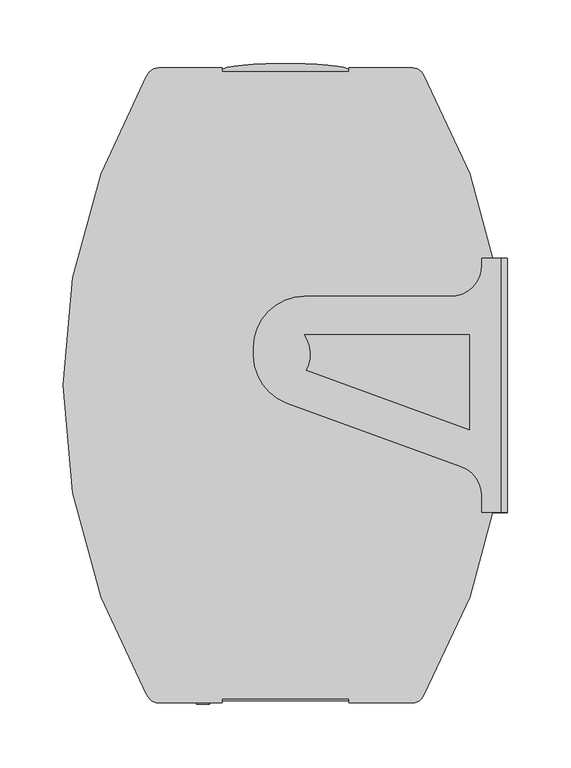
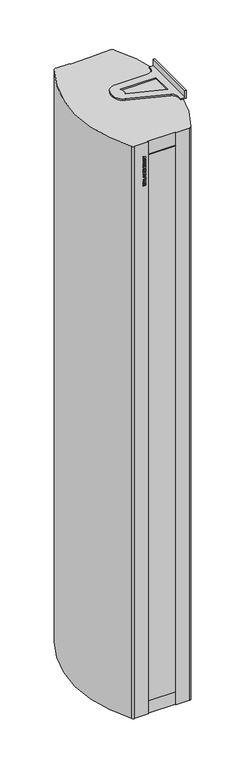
"""IFC4 building model written with IfcOpenShell, lengths in millimetres: proxy geometry, ADSK_Завеса дизайнерская_Электрическая : KVC-S22E18-31."""

from ifc_helpers import new_model, si_unit, point, frame, frame_2d, origin, origin_with_axes, place, context, project, spatial, polyline, circle_curve, ellipse_curve, trimmed, segment, composite_curve, outline, extrude, faceted_brep, source, transform, mapped, element, save
from ifc_brep_helpers import plane_surface, cylinder_surface, revolved_surface, extruded_surface, advanced_brep


def mechanical_equipment_045b932d(model_context):
    return source(origin(), model_context, "Body", "SolidModel", [
        advanced_brep(
        [(155.0, 100.0, -5.0), (170.0, 100.0, -5.0), (170.0, -100.0, -5.0), (155.0, -100.0, -5.0), (155.0, -87.5051885, -5.0), (138.5505036, -64.0128729, -5.0), (1.3191943, -14.0647611, -5.0), (-25.0, 23.5229437, -5.0), (-25.0, 30.0, -5.0), (15.0, 70.0, -5.0), (130.0, 70.0, -5.0), (155.0, 95.0, -5.0), (145.0, -34.8821335, -5.0), (145.0, 40.0, -5.0), (15.0, 40.0, -5.0), (16.5981063, 11.8523338, -5.0), (155.0, 100.0, 0.0), (155.0, 95.0, 0.0), (130.0, 70.0, 0.0), (15.0, 70.0, 0.0), (-25.0, 30.0, 0.0), (-25.0, 23.5229437, 0.0), (1.3191943, -14.0647611, 0.0), (138.5505036, -64.0128729, 0.0), (155.0, -87.5051885, 0.0), (155.0, -100.0, 0.0), (175.0, -100.0, 0.0), (175.0, 100.0, 0.0), (145.0, -34.8821335, 0.0), (16.5981063, 11.8523338, 0.0), (15.0, 40.0, 0.0), (145.0, 40.0, 0.0), (175.0, 100.0, -30.0), (170.0, 100.0, -30.0), (170.0, -100.0, -30.0), (175.0, -100.0, -30.0)],
        [
            (0, 1),
            (1, 2),
            (2, 3),
            (3, 4),
            (4, 5, circle_curve(frame((130.0, -87.5051885, -5.0), z_axis=(0.0, 0.0, 1.0), x_axis=(1.0, 0.0, 0.0)), 25.0)),
            (5, 6),
            (6, 7, circle_curve(frame((15.0, 23.5229437, -5.0), z_axis=(0.0, 0.0, -1.0), x_axis=(1.0, 0.0, 0.0)), 40.0)),
            (7, 8),
            (8, 9, circle_curve(frame((15.0, 30.0, -5.0), z_axis=(0.0, 0.0, -1.0), x_axis=(1.0, 0.0, 0.0)), 40.0)),
            (9, 10),
            (10, 11, circle_curve(frame((130.0, 95.0, -5.0), z_axis=(0.0, 0.0, 1.0), x_axis=(1.0, 0.0, 0.0)), 25.0)),
            (11, 0),
            (12, 13),
            (13, 14),
            (14, 15, circle_curve(frame((-7.1937545, 24.6207318, -5.0), z_axis=(0.0, 0.0, -1.0), x_axis=(1.0, 0.0, 0.0)), 27.0015672)),
            (15, 12),
            (16, 17),
            (17, 18, circle_curve(frame((130.0, 95.0, 0.0), z_axis=(0.0, 0.0, -1.0), x_axis=(1.0, 0.0, 0.0)), 25.0)),
            (18, 19),
            (19, 20, circle_curve(frame((15.0, 30.0, 0.0), z_axis=(0.0, 0.0, 1.0), x_axis=(1.0, 0.0, 0.0)), 40.0)),
            (20, 21),
            (21, 22, circle_curve(frame((15.0, 23.5229437, 0.0), z_axis=(0.0, 0.0, 1.0), x_axis=(1.0, 0.0, 0.0)), 40.0)),
            (22, 23),
            (23, 24, circle_curve(frame((130.0, -87.5051885, 0.0), z_axis=(0.0, 0.0, -1.0), x_axis=(1.0, 0.0, 0.0)), 25.0)),
            (24, 25),
            (25, 26),
            (26, 27),
            (27, 16),
            (28, 29),
            (29, 30, circle_curve(frame((-7.1937545, 24.6207318, 0.0), z_axis=(0.0, 0.0, 1.0), x_axis=(1.0, 0.0, 0.0)), 27.0015672)),
            (30, 31),
            (31, 28),
            (27, 32),
            (32, 33),
            (33, 1),
            (0, 16),
            (7, 21),
            (20, 8),
            (2, 34),
            (34, 35),
            (35, 26),
            (25, 3),
            (35, 32),
            (11, 17),
            (10, 18),
            (9, 19),
            (6, 22),
            (5, 23),
            (4, 24),
            (15, 29),
            (28, 12),
            (14, 30),
            (13, 31),
            (34, 33),
        ],
        [
            plane_surface(frame((-25.0, 100.0, -5.0), z_axis=(0.0, 0.0, -1.0), x_axis=(-1.0, 0.0, 0.0))),
            plane_surface(frame((-25.0, 100.0, 0.0), z_axis=(0.0, 0.0, 1.0), x_axis=(1.0, 0.0, 0.0))),
            plane_surface(frame((175.0, 100.0, -5.0), z_axis=(0.0, 1.0, 0.0), x_axis=(0.0, 0.0, 1.0))),
            plane_surface(frame((-25.0, 30.0, -5.0), z_axis=(-1.0, 0.0, 0.0), x_axis=(0.0, 0.0, 1.0))),
            plane_surface(frame((155.0, -100.0, -5.0), z_axis=(0.0, -1.0, 0.0), x_axis=(0.0, 0.0, 1.0))),
            plane_surface(frame((175.0, -100.0, -5.0), z_axis=(1.0, 0.0, 0.0), x_axis=(0.0, 0.0, 1.0))),
            plane_surface(frame((155.0, 100.0, -5.0), z_axis=(-1.0, 0.0, 0.0), x_axis=(0.0, 0.0, 1.0))),
            revolved_surface(polyline([(155.0, 95.0, 0.0), (155.0, 95.0, -5.0)]), (130.0, 95.0, 0.0), (0.0, 0.0, 1.0)),
            plane_surface(frame((130.0, 70.0, -5.0), z_axis=(0.0, 1.0, 0.0), x_axis=(0.0, 0.0, 1.0))),
            cylinder_surface(frame((15.0, 30.0, 0.0), z_axis=(0.0, 0.0, -1.0), x_axis=(1.0, 0.0, 0.0)), 40.0),
            cylinder_surface(frame((15.0, 23.5229437, 0.0), z_axis=(0.0, 0.0, -1.0), x_axis=(1.0, 0.0, 0.0)), 40.0),
            plane_surface(frame((1.3191943, -14.0647611, -5.0), z_axis=(-0.34202014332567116, -0.9396926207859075, 0.0), x_axis=(0.0, 0.0, 1.0))),
            revolved_surface(polyline([(155.0, -87.5051885, 0.0), (155.0, -87.5051885, -5.0)]), (130.0, -87.5051885, 0.0), (0.0, 0.0, 1.0)),
            plane_surface(frame((155.0, -87.5051885, -5.0), z_axis=(-1.0, 0.0, 0.0), x_axis=(0.0, 0.0, 1.0))),
            plane_surface(frame((145.0, -34.8821335, -5.0), z_axis=(0.34202014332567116, 0.9396926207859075, 0.0), x_axis=(0.0, 0.0, 1.0))),
            cylinder_surface(frame((-7.1937545, 24.6207318, 0.0), z_axis=(0.0, 0.0, -1.0), x_axis=(1.0, 0.0, 0.0)), 27.0015672),
            plane_surface(frame((15.0, 40.0, -5.0), z_axis=(0.0, -1.0, 0.0), x_axis=(0.0, 0.0, 1.0))),
            plane_surface(frame((145.0, 40.0, -5.0), z_axis=(-1.0, 0.0, 0.0), x_axis=(0.0, 0.0, 1.0))),
            plane_surface(frame((170.0, 126.8049179, -30.0), z_axis=(0.0, 0.0, -1.0), x_axis=(0.0, -1.0, 0.0))),
            plane_surface(frame((170.0, 100.0, -30.0), z_axis=(-1.0, 0.0, 0.0), x_axis=(0.0, 0.0, 1.0))),
        ],
        [
            (0, [[1, 2, 3, 4, 5, 6, 7, 8, 9, 10, 11, 12], [13, 14, 15, 16]]),
            (1, [[17, 18, 19, 20, 21, 22, 23, 24, 25, 26, 27, 28], [29, 30, 31, 32]]),
            (2, [[-28, 33, 34, 35, -1, 36]]),
            (3, [[37, -21, 38, -8]]),
            (4, [[-3, 39, 40, 41, -26, 42]]),
            (5, [[43, -33, -27, -41]]),
            (6, [[44, -17, -36, -12]]),
            (7, [[45, -18, -44, -11]]),
            (8, [[46, -19, -45, -10]]),
            (9, [[-38, -20, -46, -9]]),
            (10, [[47, -22, -37, -7]]),
            (11, [[48, -23, -47, -6]]),
            (12, [[49, -24, -48, -5]]),
            (13, [[-42, -25, -49, -4]]),
            (14, [[50, -29, 51, -16]]),
            (15, [[52, -30, -50, -15]]),
            (16, [[53, -31, -52, -14]]),
            (17, [[-51, -32, -53, -13]]),
            (18, [[-34, -43, -40, 54]]),
            (19, [[-39, -2, -35, -54]]),
        ],
    ),
        advanced_brep(
        [(155.0, 100.0, 2219.0), (155.0, 95.0, 2219.0), (130.0, 70.0, 2219.0), (15.0, 70.0, 2219.0), (-25.0, 30.0, 2219.0), (-25.0, 23.5229437, 2219.0), (1.3191943, -14.0647611, 2219.0), (138.5505036, -64.0128729, 2219.0), (155.0, -87.5051885, 2219.0), (155.0, -100.0, 2219.0), (170.0, -100.0, 2219.0), (170.0, 100.0, 2219.0), (145.0, -34.8821335, 2219.0), (16.5981063, 11.8523338, 2219.0), (15.0, 40.0, 2219.0), (145.0, 40.0, 2219.0), (155.0, 100.0, 2214.0), (175.0, 100.0, 2214.0), (175.0, -100.0, 2214.0), (155.0, -100.0, 2214.0), (155.0, -87.5051885, 2214.0), (138.5505036, -64.0128729, 2214.0), (1.3191943, -14.0647611, 2214.0), (-25.0, 23.5229437, 2214.0), (-25.0, 30.0, 2214.0), (15.0, 70.0, 2214.0), (130.0, 70.0, 2214.0), (155.0, 95.0, 2214.0), (145.0, -34.8821335, 2214.0), (145.0, 40.0, 2214.0), (15.0, 40.0, 2214.0), (16.5981063, 11.8523338, 2214.0), (170.0, 100.0, 2244.0), (175.0, 100.0, 2244.0), (175.0, -100.0, 2244.0), (170.0, -100.0, 2244.0)],
        [
            (0, 1),
            (1, 2, circle_curve(frame((130.0, 95.0, 2219.0), z_axis=(0.0, 0.0, -1.0), x_axis=(1.0, 0.0, 0.0)), 25.0)),
            (2, 3),
            (3, 4, circle_curve(frame((15.0, 30.0, 2219.0), z_axis=(0.0, 0.0, 1.0), x_axis=(1.0, 0.0, 0.0)), 40.0)),
            (4, 5),
            (5, 6, circle_curve(frame((15.0, 23.5229437, 2219.0), z_axis=(0.0, 0.0, 1.0), x_axis=(1.0, 0.0, 0.0)), 40.0)),
            (6, 7),
            (7, 8, circle_curve(frame((130.0, -87.5051885, 2219.0), z_axis=(0.0, 0.0, -1.0), x_axis=(1.0, 0.0, 0.0)), 25.0)),
            (8, 9),
            (9, 10),
            (10, 11),
            (11, 0),
            (12, 13),
            (13, 14, circle_curve(frame((-7.1937545, 24.6207318, 2219.0), z_axis=(0.0, 0.0, 1.0), x_axis=(1.0, 0.0, 0.0)), 27.0015672)),
            (14, 15),
            (15, 12),
            (16, 17),
            (17, 18),
            (18, 19),
            (19, 20),
            (20, 21, circle_curve(frame((130.0, -87.5051885, 2214.0), z_axis=(0.0, 0.0, 1.0), x_axis=(1.0, 0.0, 0.0)), 25.0)),
            (21, 22),
            (22, 23, circle_curve(frame((15.0, 23.5229437, 2214.0), z_axis=(0.0, 0.0, -1.0), x_axis=(1.0, 0.0, 0.0)), 40.0)),
            (23, 24),
            (24, 25, circle_curve(frame((15.0, 30.0, 2214.0), z_axis=(0.0, 0.0, -1.0), x_axis=(1.0, 0.0, 0.0)), 40.0)),
            (25, 26),
            (26, 27, circle_curve(frame((130.0, 95.0, 2214.0), z_axis=(0.0, 0.0, 1.0), x_axis=(1.0, 0.0, 0.0)), 25.0)),
            (27, 16),
            (28, 29),
            (29, 30),
            (30, 31, circle_curve(frame((-7.1937545, 24.6207318, 2214.0), z_axis=(0.0, 0.0, -1.0), x_axis=(1.0, 0.0, 0.0)), 27.0015672)),
            (31, 28),
            (16, 0),
            (11, 32),
            (32, 33),
            (33, 17),
            (4, 24),
            (23, 5),
            (9, 19),
            (18, 34),
            (34, 35),
            (35, 10),
            (33, 34),
            (27, 1),
            (26, 2),
            (25, 3),
            (22, 6),
            (21, 7),
            (20, 8),
            (12, 28),
            (31, 13),
            (30, 14),
            (29, 15),
            (32, 35),
        ],
        [
            plane_surface(frame((-25.0, 100.0, 2219.0), z_axis=(0.0, 0.0, 1.0), x_axis=(-1.0, 0.0, 0.0))),
            plane_surface(frame((-25.0, 100.0, 2214.0), z_axis=(0.0, 0.0, -1.0), x_axis=(1.0, 0.0, 0.0))),
            plane_surface(frame((175.0, 100.0, 2219.0), z_axis=(0.0, 1.0, 0.0), x_axis=(0.0, 0.0, -1.0))),
            plane_surface(frame((-25.0, 30.0, 2219.0), z_axis=(-1.0, 0.0, 0.0), x_axis=(0.0, 0.0, -1.0))),
            plane_surface(frame((155.0, -100.0, 2219.0), z_axis=(0.0, -1.0, 0.0), x_axis=(0.0, 0.0, -1.0))),
            plane_surface(frame((175.0, -100.0, 2219.0), z_axis=(1.0, 0.0, 0.0), x_axis=(0.0, 0.0, -1.0))),
            plane_surface(frame((155.0, 100.0, 2219.0), z_axis=(-1.0, 0.0, 0.0), x_axis=(0.0, 0.0, -1.0))),
            revolved_surface(polyline([(155.0, 95.0, 2214.0), (155.0, 95.0, 2219.0)]), (130.0, 95.0, 2214.0), (0.0, 0.0, -1.0)),
            plane_surface(frame((130.0, 70.0, 2219.0), z_axis=(0.0, 1.0, 0.0), x_axis=(0.0, 0.0, -1.0))),
            cylinder_surface(frame((15.0, 30.0, 2214.0), z_axis=(0.0, 0.0, 1.0), x_axis=(1.0, 0.0, 0.0)), 40.0),
            cylinder_surface(frame((15.0, 23.5229437, 2214.0), z_axis=(0.0, 0.0, 1.0), x_axis=(1.0, 0.0, 0.0)), 40.0),
            plane_surface(frame((1.3191943, -14.0647611, 2219.0), z_axis=(-0.3420201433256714, -0.9396926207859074, 0.0), x_axis=(0.0, 0.0, -1.0))),
            revolved_surface(polyline([(155.0, -87.5051885, 2214.0), (155.0, -87.5051885, 2219.0)]), (130.0, -87.5051885, 2214.0), (0.0, 0.0, -1.0)),
            plane_surface(frame((155.0, -87.5051885, 2219.0), z_axis=(-1.0, 0.0, 0.0), x_axis=(0.0, 0.0, -1.0))),
            plane_surface(frame((145.0, -34.8821335, 2219.0), z_axis=(0.3420201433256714, 0.9396926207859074, 0.0), x_axis=(0.0, 0.0, -1.0))),
            cylinder_surface(frame((-7.1937545, 24.6207318, 2214.0), z_axis=(0.0, 0.0, 1.0), x_axis=(1.0, 0.0, 0.0)), 27.0015672),
            plane_surface(frame((15.0, 40.0, 2219.0), z_axis=(0.0, -1.0, 0.0), x_axis=(0.0, 0.0, -1.0))),
            plane_surface(frame((145.0, 40.0, 2219.0), z_axis=(-1.0, 0.0, 0.0), x_axis=(0.0, 0.0, -1.0))),
            plane_surface(frame((170.0, 126.8049179, 2244.0), z_axis=(0.0, 0.0, 1.0), x_axis=(0.0, -1.0, 0.0))),
            plane_surface(frame((170.0, 100.0, 2244.0), z_axis=(-1.0, 0.0, 0.0), x_axis=(0.0, 0.0, -1.0))),
        ],
        [
            (0, [[1, 2, 3, 4, 5, 6, 7, 8, 9, 10, 11, 12], [13, 14, 15, 16]]),
            (1, [[17, 18, 19, 20, 21, 22, 23, 24, 25, 26, 27, 28], [29, 30, 31, 32]]),
            (2, [[33, -12, 34, 35, 36, -17]]),
            (3, [[-5, 37, -24, 38]]),
            (4, [[39, -19, 40, 41, 42, -10]]),
            (5, [[-40, -18, -36, 43]]),
            (6, [[-1, -33, -28, 44]]),
            (7, [[-2, -44, -27, 45]]),
            (8, [[-3, -45, -26, 46]]),
            (9, [[-4, -46, -25, -37]]),
            (10, [[-6, -38, -23, 47]]),
            (11, [[-7, -47, -22, 48]]),
            (12, [[-8, -48, -21, 49]]),
            (13, [[-9, -49, -20, -39]]),
            (14, [[-13, 50, -32, 51]]),
            (15, [[-14, -51, -31, 52]]),
            (16, [[-15, -52, -30, 53]]),
            (17, [[-16, -53, -29, -50]]),
            (18, [[54, -41, -43, -35]]),
            (19, [[-54, -34, -11, -42]]),
        ],
    ),
        extrude(outline(polyline([(2050.0784314, -70.0), (2050.0784314, -60.0), (2053.2156863, -60.0), (2053.2156863, -61.7647059), (2054.9865196, -63.7745098), (2056.8186275, -60.0), (2060.6666667, -60.0), (2057.192402, -66.2775735), (2060.4705882, -70.0), (2056.1997549, -70.0), (2053.2156863, -66.2224265), (2053.2156863, -70.0), (2050.0784314, -70.0)])), frame((0.0, -251.0, 0.0), z_axis=(0.0, 1.0, 0.0), x_axis=(0.0, 0.0, 1.0)), (0.0, 0.0, 1.0), 1.0),
        extrude(outline(polyline([(2067.6642157, -61.5686275), (2068.1176471, -60.0), (2071.4509804, -60.0), (2068.0778186, -70.0), (2064.0398284, -70.0), (2060.6666667, -60.0), (2064.0, -60.0), (2064.4319853, -61.5686275), (2067.6642157, -61.5686275)]), holes=[polyline([(2067.0698529, -63.9215686), (2065.0814951, -63.9215686), (2066.0588235, -67.4540441), (2067.0698529, -63.9215686)])]), frame((0.0, -251.0, 0.0), z_axis=(0.0, 1.0, 0.0), x_axis=(0.0, 0.0, 1.0)), (0.0, 0.0, 1.0), 1.0),
        extrude(outline(polyline([(2072.4313725, -70.0), (2072.4313725, -60.0), (2080.2745098, -60.0), (2080.2745098, -62.3529412), (2075.5686275, -62.3529412), (2075.5686275, -70.0), (2072.4313725, -70.0)])), frame((0.0, -251.0, 0.0), z_axis=(0.0, 1.0, 0.0), x_axis=(0.0, 0.0, 1.0)), (0.0, 0.0, 1.0), 1.0),
        extrude(outline(polyline([(2087.6642157, -61.5686275), (2088.1176471, -60.0), (2091.4509804, -60.0), (2088.0778186, -70.0), (2084.0398284, -70.0), (2080.6666667, -60.0), (2084.0, -60.0), (2084.4319853, -61.5686275), (2087.6642157, -61.5686275)]), holes=[polyline([(2087.0698529, -63.9215686), (2085.0814951, -63.9215686), (2086.0588235, -67.4540441), (2087.0698529, -63.9215686)])]), frame((0.0, -251.0, 0.0), z_axis=(0.0, 1.0, 0.0), x_axis=(0.0, 0.0, 1.0)), (0.0, 0.0, 1.0), 1.0),
        extrude(outline(polyline([(2091.8431373, -63.3394608), (2092.9491422, -60.8026961), (2096.4601716, -59.8039216), (2098.8560049, -60.2297794), (2100.3342525, -61.4813113), (2100.8627451, -63.28125), (2100.4675245, -64.7870711), (2099.2022059, -65.9129902), (2096.3223039, -66.8106618), (2096.1905637, -68.4313725), (2096.9641544, -68.1050858), (2097.3333333, -67.0588235), (2100.4705882, -67.2395833), (2099.2925858, -69.4883578), (2096.4172794, -70.1960784), (2093.9969363, -69.8039216), (2092.6749387, -68.7285539), (2092.2352941, -67.276348), (2093.1023284, -65.3492647), (2095.9761029, -64.1237745), (2097.7254902, -62.8186275), (2097.4114583, -62.0818015), (2096.5183824, -61.7647059), (2095.3204657, -62.3958333), (2094.9803922, -63.5294118), (2091.8431373, -63.3394608)])), frame((0.0, -251.0, 0.0), z_axis=(0.0, 1.0, 0.0), x_axis=(0.0, 0.0, 1.0)), (0.0, 0.0, 1.0), 1.0),
        extrude(outline(polyline([(2102.4313725, -70.0), (2102.4313725, -60.0), (2105.5686275, -60.0), (2105.5686275, -64.1176471), (2108.9019608, -64.1176471), (2108.9019608, -60.0), (2112.0392157, -60.0), (2112.0392157, -70.0), (2108.9019608, -70.0), (2108.9019608, -66.4705882), (2105.5686275, -66.4705882), (2105.5686275, -70.0), (2102.4313725, -70.0)])), frame((0.0, -251.0, 0.0), z_axis=(0.0, 1.0, 0.0), x_axis=(0.0, 0.0, 1.0)), (0.0, 0.0, 1.0), 1.0),
        extrude(outline(polyline([(2114.0, -70.0), (2114.0, -60.0), (2116.9411765, -60.0), (2116.9411765, -65.4901961), (2120.6666667, -60.0), (2123.6078431, -60.0), (2123.6078431, -70.0), (2120.6666667, -70.0), (2120.6666667, -64.4730392), (2116.9197304, -70.0), (2114.0, -70.0)])), frame((0.0, -251.0, 0.0), z_axis=(0.0, 1.0, 0.0), x_axis=(0.0, 0.0, 1.0)), (0.0, 0.0, 1.0), 1.0),
        extrude(outline(polyline([(-60.0, -251.0), (-70.0, -251.0), (-70.0, -250.0), (-60.0, -250.0), (-60.0, -251.0)])), frame((0.0, 0.0, 2125.7647059), z_axis=(0.0, 0.0, 1.0), x_axis=(1.0, 0.0, 0.0)), (0.0, 0.0, 1.0), 3.1372549),
        extrude(outline(polyline([(2131.0588235, -70.0), (2131.0588235, -60.0), (2134.1960784, -60.0), (2134.1960784, -61.7647059), (2135.9669118, -63.7745098), (2137.7990196, -60.0), (2141.6470588, -60.0), (2138.1727941, -66.2775735), (2141.4509804, -70.0), (2137.1801471, -70.0), (2134.1960784, -66.2224265), (2134.1960784, -70.0), (2131.0588235, -70.0)])), frame((0.0, -251.0, 0.0), z_axis=(0.0, 1.0, 0.0), x_axis=(0.0, 0.0, 1.0)), (0.0, 0.0, 1.0), 1.0),
        extrude(outline(polyline([(2142.2352941, -64.9938725), (2142.9261642, -62.0603554), (2144.7291667, -60.346201), (2147.5386029, -59.8039216), (2150.3250613, -60.4304534), (2152.036152, -62.1859681), (2152.627451, -65.0765931), (2151.2732843, -68.8495711), (2147.4129902, -70.1960784), (2143.6032475, -68.8250613), (2142.2352941, -64.9938725)]), holes=[polyline([(2145.372549, -64.9938725), (2145.9301471, -67.1813725), (2147.4068627, -67.8431373), (2148.9295343, -67.1920956), (2149.4901961, -65.1286765), (2148.9525123, -62.8048407), (2147.4344363, -62.1568627), (2145.9270833, -62.8186275), (2145.372549, -64.9938725)])]), frame((0.0, -251.0, 0.0), z_axis=(0.0, 1.0, 0.0), x_axis=(0.0, 0.0, 1.0)), (0.0, 0.0, 1.0), 1.0),
        extrude(outline(polyline([(2153.4117647, -70.0), (2157.1280637, -60.0), (2160.4583333, -60.0), (2164.1960784, -70.0), (2160.8627451, -70.0), (2158.8039216, -62.8033088), (2156.7420343, -70.0), (2153.4117647, -70.0)])), frame((0.0, -251.0, 0.0), z_axis=(0.0, 1.0, 0.0), x_axis=(0.0, 0.0, 1.0)), (0.0, 0.0, 1.0), 1.0),
        faceted_brep([(50.0, -247.0, 2164.0), (-50.0, -247.0, 2164.0), (-50.0, -248.5, 2164.0), (50.0, -248.5, 2164.0), (50.0, -247.0, 50.0), (50.0, -248.5, 50.0), (-50.0, -248.5, 50.0), (-50.0, -247.0, 50.0)], [[[0, 1, 2, 3]], [[4, 5, 6, 7]], [[1, 0, 4, 7]], [[2, 1, 7, 6]], [[3, 2, 6, 5]], [[0, 3, 5, 4]]]),
        advanced_brep(
        [(-50.0, 248.5, 2164.0), (-50.0, 247.0, 2164.0), (50.0, 247.0, 2164.0), (50.0, 248.5, 2164.0), (-50.0, 248.5, 50.0), (50.0, 248.5, 50.0), (50.0, 247.0, 50.0), (-50.0, 247.0, 50.0)],
        [
            (0, 1),
            (1, 2),
            (2, 3),
            (3, 0, ellipse_curve(frame((0.0, 248.5, 2164.0), z_axis=(0.0, 0.0, 1.0), x_axis=(-1.0, 0.0, 0.0)), 50.0, 5.0)),
            (4, 5, ellipse_curve(frame((0.0, 248.5, 50.0), z_axis=(0.0, 0.0, -1.0), x_axis=(-1.0, 0.0, 0.0)), 50.0, 5.0)),
            (5, 6),
            (6, 7),
            (7, 4),
            (0, 4),
            (7, 1),
            (6, 2),
            (5, 3),
        ],
        [
            plane_surface(frame((-50.0, -247.0, 2164.0), z_axis=(0.0, 0.0, 1.0), x_axis=(-1.0, 0.0, 0.0))),
            plane_surface(frame((-50.0, -247.0, 50.0), z_axis=(0.0, 0.0, -1.0), x_axis=(1.0, 0.0, 0.0))),
            plane_surface(frame((-50.0, 248.5, 2164.0), z_axis=(-1.0, 0.0, 0.0), x_axis=(0.0, 0.0, -1.0))),
            plane_surface(frame((-50.0, 247.0, 2164.0), z_axis=(0.0, -1.0, 0.0), x_axis=(0.0, 0.0, -1.0))),
            plane_surface(frame((50.0, 247.0, 2164.0), z_axis=(1.0, 0.0, 0.0), x_axis=(0.0, 0.0, -1.0))),
            extruded_surface(trimmed(ellipse_curve(frame((0.0, 248.5, -2114.0), z_axis=(0.0, 0.0, 1.0), x_axis=(-1.0, 0.0, 0.0)), 50.0, 5.0), [point((50.0, 248.5, -2114.0))], [point((-50.0, 248.5, -2114.0))], True, "CARTESIAN"), (0.0, 0.0, 2114.0), 2114.0),
        ],
        [
            (0, [[1, 2, 3, 4]]),
            (1, [[5, 6, 7, 8]]),
            (2, [[-1, 9, -8, 10]]),
            (3, [[-2, -10, -7, 11]]),
            (4, [[-3, -11, -6, 12]]),
            (5, [[-4, -12, -5, -9]]),
        ],
    ),
        extrude(outline(composite_curve([segment(polyline([(-50.0, 250.0), (-50.0, 247.0), (50.0, 247.0), (50.0, 250.0), (100.0, 250.0)]), True, "CONTINUOUS"), segment(trimmed(circle_curve(frame_2d((100.0, 240.0)), 10.0), [point((100.0, 250.0))], [point((109.287324, 243.7075077))], False, "CARTESIAN"), True, "CONTINUOUS"), segment(trimmed(circle_curve(frame_2d((-309.7733265, 0.0)), 484.7733265), [point((109.287324, 243.7075077))], [point((109.287324, -243.7075077))], False, "CARTESIAN"), True, "CONTINUOUS"), segment(trimmed(circle_curve(frame_2d((100.0, -240.0)), 10.0), [point((109.287324, -243.7075077))], [point((100.0, -250.0))], False, "CARTESIAN"), True, "CONTINUOUS"), segment(polyline([(100.0, -250.0), (50.0, -250.0), (50.0, -247.0), (-50.0, -247.0), (-50.0, -250.0), (-100.0, -250.0)]), True, "CONTINUOUS"), segment(trimmed(circle_curve(frame_2d((-100.0, -240.0)), 10.0), [point((-100.0, -250.0))], [point((-109.287324, -243.7075077))], False, "CARTESIAN"), True, "CONTINUOUS"), segment(trimmed(circle_curve(frame_2d((309.7733265, 0.0)), 484.7733265), [point((-109.287324, -243.7075077))], [point((-109.287324, 243.7075077))], False, "CARTESIAN"), True, "CONTINUOUS"), segment(trimmed(circle_curve(frame_2d((-100.0, 240.0)), 10.0), [point((-109.287324, 243.7075077))], [point((-100.0, 250.0))], False, "CARTESIAN"), True, "CONTINUOUS"), segment(polyline([(-100.0, 250.0), (-50.0, 250.0)]), True, "CONTINUOUS")], self_intersect=False)), origin_with_axes(), (0.0, 0.0, 1.0), 2214.0),
    ])


if __name__ == "__main__":
    model = new_model("IFC4")
    model_context = context("Model", 3, world=origin())
    ifc_project = project(units=[si_unit("LENGTHUNIT", "METRE", prefix="MILLI")], contexts=[model_context])
    site = spatial("IfcSite", under=ifc_project)
    building = spatial("IfcBuilding", under=site)
    placement = place(None, origin())
    mechanical_equipment_shape = mechanical_equipment_045b932d(model_context)
    element("IfcBuildingElementProxy", 1, Name="ADSK_Завеса дизайнерская_Электрическая : KVC-S22E18-31", ObjectType="ADSK_Завеса дизайнерская_Электрическая : KVC-S22E18-31", at=placement, inside=building, context=model_context, shape_type="MappedRepresentation", body=[
        mapped(mechanical_equipment_shape, transform((0.0, 0.0, 0.0), x_axis=(1.0, 0.0, 0.0), y_axis=(0.0, 1.0, 0.0), z_axis=(0.0, 0.0, 1.0))),
    ])
    save(model, "model.ifc")
